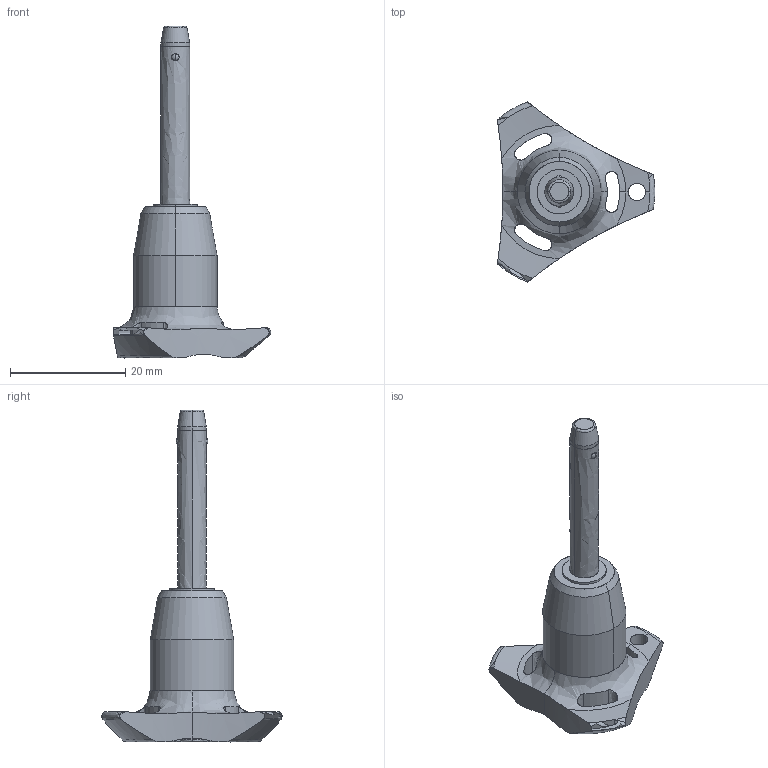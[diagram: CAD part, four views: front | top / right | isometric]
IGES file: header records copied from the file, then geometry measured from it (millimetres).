
Start section: SolidWorks IGES file using analytic representation for surfaces
Global section: file name: C:\Users\ianosborn\Desktop\QR1736_v2\QR1736_v2_20251115_IGES\Default.igs; native system: SolidWorks 2019; preprocessor: SolidWorks 2019; author: IanOsborn; date: 251113.114453; units: millimetre
Bounding box: 27.4 x 31.31 x 57.7 mm (x, y, z)
Surface area: 2900.1 mm2 (no closed solid volume)
Topology: 0 solids, 0 shells, 69 faces, 1304 edges, 1285 vertices
Faces by surface type: revolution 52, bspline 17
